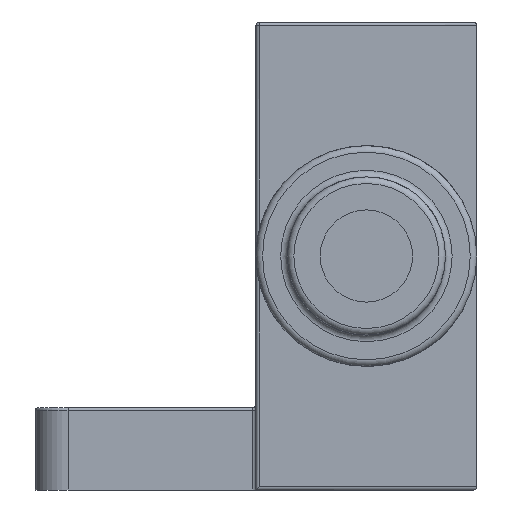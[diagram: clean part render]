
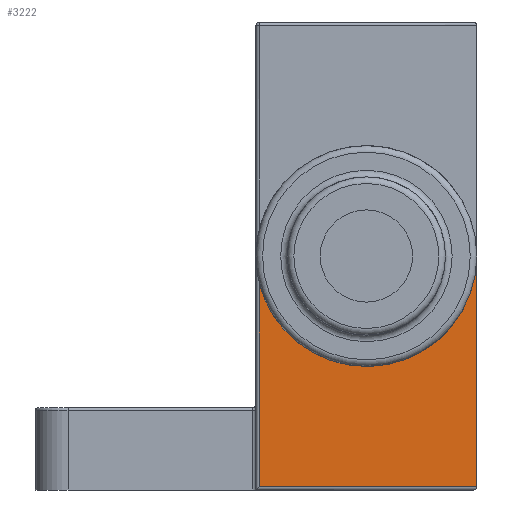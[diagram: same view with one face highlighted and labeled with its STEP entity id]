
A CAD part, front view. The second image highlights one B-rep face of the part: STEP entity #3222.
In plain terms, the highlighted planar face has unit normal (0, -1, 0).
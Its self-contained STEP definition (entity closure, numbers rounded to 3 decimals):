
#175=LINE('',#5216,#435);
#176=LINE('',#5218,#436);
#177=LINE('',#5219,#437);
#435=VECTOR('',#4124,10.);
#436=VECTOR('',#4125,10.);
#437=VECTOR('',#4126,10.);
#611=PLANE('',#3484);
#785=FACE_OUTER_BOUND('',#1005,.T.);
#1005=EDGE_LOOP('',(#2379,#2380,#2381,#2382));
#1225=CIRCLE('',#3485,3.35);
#1489=VERTEX_POINT('',#5212);
#1490=VERTEX_POINT('',#5213);
#1491=VERTEX_POINT('',#5215);
#1492=VERTEX_POINT('',#5217);
#1818=EDGE_CURVE('',#1489,#1490,#1225,.T.);
#1819=EDGE_CURVE('',#1491,#1490,#175,.T.);
#1820=EDGE_CURVE('',#1492,#1491,#176,.T.);
#1821=EDGE_CURVE('',#1492,#1489,#177,.T.);
#2379=ORIENTED_EDGE('',*,*,#1818,.T.);
#2380=ORIENTED_EDGE('',*,*,#1819,.F.);
#2381=ORIENTED_EDGE('',*,*,#1820,.F.);
#2382=ORIENTED_EDGE('',*,*,#1821,.T.);
#3222=ADVANCED_FACE('',(#785),#611,.T.);
#3484=AXIS2_PLACEMENT_3D('',#5211,#4120,#4121);
#3485=AXIS2_PLACEMENT_3D('',#5214,#4122,#4123);
#4120=DIRECTION('center_axis',(0.,-1.,0.));
#4121=DIRECTION('ref_axis',(1.,0.,0.));
#4122=DIRECTION('center_axis',(0.,1.,0.));
#4123=DIRECTION('ref_axis',(1.,0.,0.));
#4124=DIRECTION('',(0.,0.,1.));
#4125=DIRECTION('',(-1.,0.,0.));
#4126=DIRECTION('',(0.,0.,1.));
#5211=CARTESIAN_POINT('Origin',(-4.327,1.854,-7.099));
#5212=CARTESIAN_POINT('',(2.373,1.854,0.001));
#5213=CARTESIAN_POINT('',(-4.227,1.854,-0.812));
#5214=CARTESIAN_POINT('Origin',(-0.977,1.854,0.001));
#5215=CARTESIAN_POINT('',(-4.227,1.854,-6.999));
#5216=CARTESIAN_POINT('',(-4.227,1.854,-7.099));
#5217=CARTESIAN_POINT('',(2.373,1.854,-6.999));
#5218=CARTESIAN_POINT('',(-2.652,1.854,-6.999));
#5219=CARTESIAN_POINT('',(2.373,1.854,-7.099));
